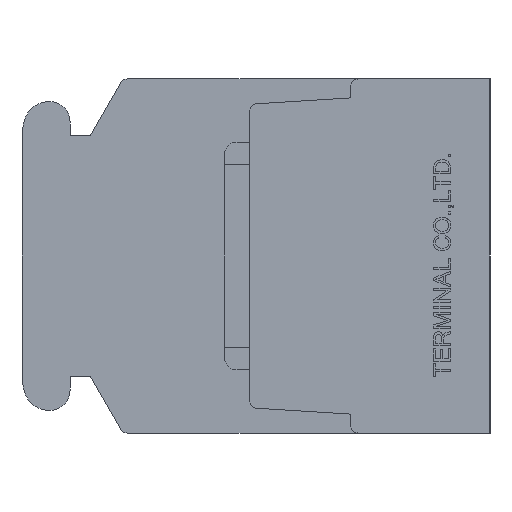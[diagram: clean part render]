
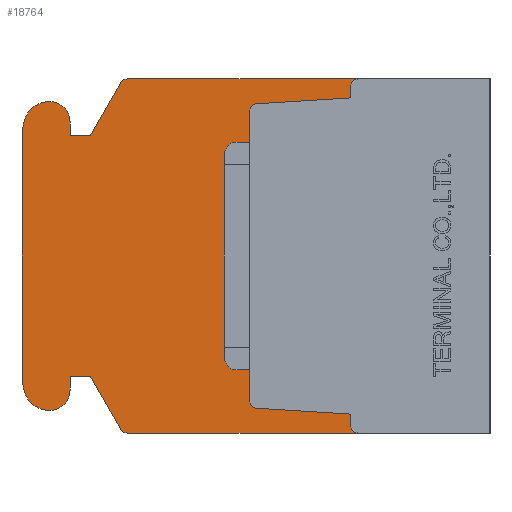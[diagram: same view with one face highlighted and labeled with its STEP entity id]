
A CAD part, left-side view. The second image highlights one B-rep face of the part: STEP entity #18764.
In plain terms, the highlighted planar face has unit normal (-1, 0, 0).
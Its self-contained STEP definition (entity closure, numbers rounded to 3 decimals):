
#784=PLANE('',#20086);
#1447=CIRCLE('',#20087,0.3);
#1448=CIRCLE('',#20088,0.3);
#1449=CIRCLE('',#20089,0.3);
#1450=CIRCLE('',#20090,0.3);
#1451=CIRCLE('',#20091,0.3);
#1452=CIRCLE('',#20092,0.8);
#1453=CIRCLE('',#20093,1.);
#1454=CIRCLE('',#20094,2.);
#1455=CIRCLE('',#20095,2.);
#1456=CIRCLE('',#20096,1.);
#1457=CIRCLE('',#20097,0.8);
#1458=CIRCLE('',#20098,0.3);
#2493=VECTOR('',#22736,1.);
#2494=VECTOR('',#22737,1.);
#2495=VECTOR('',#22740,1.);
#2496=VECTOR('',#22743,1.);
#2497=VECTOR('',#22744,1.);
#2498=VECTOR('',#22747,1.);
#2499=VECTOR('',#22750,1.);
#2500=VECTOR('',#22751,1.);
#2501=VECTOR('',#22752,1.);
#2502=VECTOR('',#22755,1.);
#2503=VECTOR('',#22760,1.);
#2504=VECTOR('',#22765,1.);
#2505=VECTOR('',#22768,1.);
#2506=VECTOR('',#22769,1.);
#2507=VECTOR('',#22770,1.);
#2508=VECTOR('',#22773,1.);
#4567=LINE('',#27377,#2493);
#4568=LINE('',#27379,#2494);
#4569=LINE('',#27383,#2495);
#4570=LINE('',#27387,#2496);
#4571=LINE('',#27389,#2497);
#4572=LINE('',#27393,#2498);
#4573=LINE('',#27397,#2499);
#4574=LINE('',#27399,#2500);
#4575=LINE('',#27401,#2501);
#4576=LINE('',#27405,#2502);
#4577=LINE('',#27411,#2503);
#4578=LINE('',#27417,#2504);
#4579=LINE('',#27421,#2505);
#4580=LINE('',#27423,#2506);
#4581=LINE('',#27425,#2507);
#4582=LINE('',#27429,#2508);
#6629=VERTEX_POINT('',#27375);
#6630=VERTEX_POINT('',#27376);
#6631=VERTEX_POINT('',#27378);
#6632=VERTEX_POINT('',#27380);
#6633=VERTEX_POINT('',#27382);
#6634=VERTEX_POINT('',#27384);
#6635=VERTEX_POINT('',#27386);
#6636=VERTEX_POINT('',#27388);
#6637=VERTEX_POINT('',#27390);
#6638=VERTEX_POINT('',#27392);
#6639=VERTEX_POINT('',#27394);
#6640=VERTEX_POINT('',#27396);
#6641=VERTEX_POINT('',#27398);
#6642=VERTEX_POINT('',#27400);
#6643=VERTEX_POINT('',#27402);
#6644=VERTEX_POINT('',#27404);
#6645=VERTEX_POINT('',#27406);
#6646=VERTEX_POINT('',#27408);
#6647=VERTEX_POINT('',#27410);
#6648=VERTEX_POINT('',#27412);
#6649=VERTEX_POINT('',#27414);
#6650=VERTEX_POINT('',#27416);
#6651=VERTEX_POINT('',#27418);
#6652=VERTEX_POINT('',#27420);
#6653=VERTEX_POINT('',#27422);
#6654=VERTEX_POINT('',#27424);
#6655=VERTEX_POINT('',#27426);
#6656=VERTEX_POINT('',#27428);
#8995=EDGE_CURVE('',#6629,#6630,#1447,.T.);
#8996=EDGE_CURVE('',#6631,#6629,#4567,.T.);
#8997=EDGE_CURVE('',#6632,#6631,#4568,.T.);
#8998=EDGE_CURVE('',#6633,#6632,#1448,.T.);
#8999=EDGE_CURVE('',#6634,#6633,#4569,.T.);
#9000=EDGE_CURVE('',#6635,#6634,#1449,.T.);
#9001=EDGE_CURVE('',#6636,#6635,#4570,.T.);
#9002=EDGE_CURVE('',#6637,#6636,#4571,.T.);
#9003=EDGE_CURVE('',#6638,#6637,#1450,.T.);
#9004=EDGE_CURVE('',#6639,#6638,#4572,.T.);
#9005=EDGE_CURVE('',#6640,#6639,#1451,.T.);
#9006=EDGE_CURVE('',#6641,#6640,#4573,.T.);
#9007=EDGE_CURVE('',#6642,#6641,#4574,.T.);
#9008=EDGE_CURVE('',#6643,#6642,#4575,.T.);
#9009=EDGE_CURVE('',#6644,#6643,#1452,.T.);
#9010=EDGE_CURVE('',#6645,#6644,#4576,.T.);
#9011=EDGE_CURVE('',#6646,#6645,#1453,.T.);
#9012=EDGE_CURVE('',#6647,#6646,#1454,.T.);
#9013=EDGE_CURVE('',#6648,#6647,#4577,.T.);
#9014=EDGE_CURVE('',#6649,#6648,#1455,.T.);
#9015=EDGE_CURVE('',#6650,#6649,#1456,.T.);
#9016=EDGE_CURVE('',#6651,#6650,#4578,.T.);
#9017=EDGE_CURVE('',#6652,#6651,#1457,.T.);
#9018=EDGE_CURVE('',#6653,#6652,#4579,.T.);
#9019=EDGE_CURVE('',#6654,#6653,#4580,.T.);
#9020=EDGE_CURVE('',#6655,#6654,#4581,.T.);
#9021=EDGE_CURVE('',#6656,#6655,#1458,.T.);
#9022=EDGE_CURVE('',#6630,#6656,#4582,.T.);
#12910=ORIENTED_EDGE('',*,*,#8995,.F.);
#12911=ORIENTED_EDGE('',*,*,#8996,.F.);
#12912=ORIENTED_EDGE('',*,*,#8997,.F.);
#12913=ORIENTED_EDGE('',*,*,#8998,.F.);
#12914=ORIENTED_EDGE('',*,*,#8999,.F.);
#12915=ORIENTED_EDGE('',*,*,#9000,.F.);
#12916=ORIENTED_EDGE('',*,*,#9001,.F.);
#12917=ORIENTED_EDGE('',*,*,#9002,.F.);
#12918=ORIENTED_EDGE('',*,*,#9003,.F.);
#12919=ORIENTED_EDGE('',*,*,#9004,.F.);
#12920=ORIENTED_EDGE('',*,*,#9005,.F.);
#12921=ORIENTED_EDGE('',*,*,#9006,.F.);
#12922=ORIENTED_EDGE('',*,*,#9007,.F.);
#12923=ORIENTED_EDGE('',*,*,#9008,.F.);
#12924=ORIENTED_EDGE('',*,*,#9009,.F.);
#12925=ORIENTED_EDGE('',*,*,#9010,.F.);
#12926=ORIENTED_EDGE('',*,*,#9011,.F.);
#12927=ORIENTED_EDGE('',*,*,#9012,.F.);
#12928=ORIENTED_EDGE('',*,*,#9013,.F.);
#12929=ORIENTED_EDGE('',*,*,#9014,.F.);
#12930=ORIENTED_EDGE('',*,*,#9015,.F.);
#12931=ORIENTED_EDGE('',*,*,#9016,.F.);
#12932=ORIENTED_EDGE('',*,*,#9017,.F.);
#12933=ORIENTED_EDGE('',*,*,#9018,.F.);
#12934=ORIENTED_EDGE('',*,*,#9019,.F.);
#12935=ORIENTED_EDGE('',*,*,#9020,.F.);
#12936=ORIENTED_EDGE('',*,*,#9021,.F.);
#12937=ORIENTED_EDGE('',*,*,#9022,.F.);
#16576=EDGE_LOOP('',(#12910,#12911,#12912,#12913,#12914,#12915,#12916,#12917,
#12918,#12919,#12920,#12921,#12922,#12923,#12924,#12925,#12926,#12927,#12928,
#12929,#12930,#12931,#12932,#12933,#12934,#12935,#12936,#12937));
#17688=FACE_BOUND('',#16576,.T.);
#18764=ADVANCED_FACE('',(#17688),#784,.F.);
#20086=AXIS2_PLACEMENT_3D('',#27373,#22733,$);
#20087=AXIS2_PLACEMENT_3D('',#27374,#22734,#22735);
#20088=AXIS2_PLACEMENT_3D('',#27381,#22738,#22739);
#20089=AXIS2_PLACEMENT_3D('',#27385,#22741,#22742);
#20090=AXIS2_PLACEMENT_3D('',#27391,#22745,#22746);
#20091=AXIS2_PLACEMENT_3D('',#27395,#22748,#22749);
#20092=AXIS2_PLACEMENT_3D('',#27403,#22753,#22754);
#20093=AXIS2_PLACEMENT_3D('',#27407,#22756,#22757);
#20094=AXIS2_PLACEMENT_3D('',#27409,#22758,#22759);
#20095=AXIS2_PLACEMENT_3D('',#27413,#22761,#22762);
#20096=AXIS2_PLACEMENT_3D('',#27415,#22763,#22764);
#20097=AXIS2_PLACEMENT_3D('',#27419,#22766,#22767);
#20098=AXIS2_PLACEMENT_3D('',#27427,#22771,#22772);
#22733=DIRECTION('',(1.,0.,0.));
#22734=DIRECTION('',(-1.,0.,0.));
#22735=DIRECTION('',(0.,0.,-0.3));
#22736=DIRECTION('',(0.,0.,-1.));
#22737=DIRECTION('',(0.,-0.998,-0.062));
#22738=DIRECTION('',(-1.,0.,0.));
#22739=DIRECTION('',(0.,0.,-0.3));
#22740=DIRECTION('',(0.,0.,-1.));
#22741=DIRECTION('',(-1.,0.,0.));
#22742=DIRECTION('',(0.,0.,-0.3));
#22743=DIRECTION('',(0.,0.998,-0.062));
#22744=DIRECTION('',(0.,0.,-1.));
#22745=DIRECTION('',(-1.,0.,0.));
#22746=DIRECTION('',(0.,0.,-0.3));
#22747=DIRECTION('',(0.,-1.,0.));
#22748=DIRECTION('',(1.,0.,0.));
#22749=DIRECTION('',(0.,0.,-0.3));
#22750=DIRECTION('',(0.,-0.5,0.866));
#22751=DIRECTION('',(0.,-1.,0.));
#22752=DIRECTION('',(0.,0.,-1.));
#22753=DIRECTION('',(1.,0.,0.));
#22754=DIRECTION('',(0.,0.,-0.8));
#22755=DIRECTION('',(0.,-1.,0.));
#22756=DIRECTION('',(1.,0.,0.));
#22757=DIRECTION('',(0.,0.,-1.));
#22758=DIRECTION('',(1.,0.,0.));
#22759=DIRECTION('',(0.,0.,-2.));
#22760=DIRECTION('',(0.,0.,1.));
#22761=DIRECTION('',(1.,0.,0.));
#22762=DIRECTION('',(0.,0.,-2.));
#22763=DIRECTION('',(1.,0.,0.));
#22764=DIRECTION('',(0.,0.,-1.));
#22765=DIRECTION('',(0.,1.,0.));
#22766=DIRECTION('',(1.,0.,0.));
#22767=DIRECTION('',(0.,0.,-0.8));
#22768=DIRECTION('',(0.,0.,-1.));
#22769=DIRECTION('',(0.,1.,0.));
#22770=DIRECTION('',(0.,0.5,0.866));
#22771=DIRECTION('',(1.,0.,0.));
#22772=DIRECTION('',(0.,0.,-0.3));
#22773=DIRECTION('',(0.,1.,0.));
#27373=CARTESIAN_POINT('',(8.15,9.311,0.));
#27374=CARTESIAN_POINT('',(8.15,5.2,-6.7));
#27375=CARTESIAN_POINT('',(8.15,5.5,-6.7));
#27376=CARTESIAN_POINT('',(8.15,5.2,-7.));
#27377=CARTESIAN_POINT('',(8.15,5.5,-6.7));
#27378=CARTESIAN_POINT('',(8.15,5.5,-6.25));
#27379=CARTESIAN_POINT('',(8.15,5.5,-6.25));
#27380=CARTESIAN_POINT('',(8.15,9.219,-6.018));
#27381=CARTESIAN_POINT('',(8.15,9.2,-5.718));
#27382=CARTESIAN_POINT('',(8.15,9.5,-5.718));
#27383=CARTESIAN_POINT('',(8.15,9.5,-5.718));
#27384=CARTESIAN_POINT('',(8.15,9.5,5.718));
#27385=CARTESIAN_POINT('',(8.15,9.2,5.718));
#27386=CARTESIAN_POINT('',(8.15,9.219,6.018));
#27387=CARTESIAN_POINT('',(8.15,9.219,6.018));
#27388=CARTESIAN_POINT('',(8.15,5.5,6.25));
#27389=CARTESIAN_POINT('',(8.15,5.5,6.25));
#27390=CARTESIAN_POINT('',(8.15,5.5,6.7));
#27391=CARTESIAN_POINT('',(8.15,5.2,6.7));
#27392=CARTESIAN_POINT('',(8.15,5.2,7.));
#27393=CARTESIAN_POINT('',(8.15,14.327,7.));
#27394=CARTESIAN_POINT('',(8.15,14.327,7.));
#27395=CARTESIAN_POINT('',(8.15,14.327,6.7));
#27396=CARTESIAN_POINT('',(8.15,14.587,6.85));
#27397=CARTESIAN_POINT('',(8.15,15.8,4.75));
#27398=CARTESIAN_POINT('',(8.15,15.8,4.75));
#27399=CARTESIAN_POINT('',(8.15,16.6,4.75));
#27400=CARTESIAN_POINT('',(8.15,16.6,4.75));
#27401=CARTESIAN_POINT('',(8.15,16.6,5.3));
#27402=CARTESIAN_POINT('',(8.15,16.6,5.3));
#27403=CARTESIAN_POINT('',(8.15,17.4,5.3));
#27404=CARTESIAN_POINT('',(8.15,17.4,6.1));
#27405=CARTESIAN_POINT('',(8.15,17.437,6.1));
#27406=CARTESIAN_POINT('',(8.15,17.437,6.1));
#27407=CARTESIAN_POINT('',(8.15,17.437,5.1));
#27408=CARTESIAN_POINT('',(8.15,18.373,5.45));
#27409=CARTESIAN_POINT('',(8.15,16.5,4.75));
#27410=CARTESIAN_POINT('',(8.15,18.5,4.75));
#27411=CARTESIAN_POINT('',(8.15,18.5,-4.75));
#27412=CARTESIAN_POINT('',(8.15,18.5,-4.75));
#27413=CARTESIAN_POINT('',(8.15,16.5,-4.75));
#27414=CARTESIAN_POINT('',(8.15,18.373,-5.45));
#27415=CARTESIAN_POINT('',(8.15,17.437,-5.1));
#27416=CARTESIAN_POINT('',(8.15,17.437,-6.1));
#27417=CARTESIAN_POINT('',(8.15,17.4,-6.1));
#27418=CARTESIAN_POINT('',(8.15,17.4,-6.1));
#27419=CARTESIAN_POINT('',(8.15,17.4,-5.3));
#27420=CARTESIAN_POINT('',(8.15,16.6,-5.3));
#27421=CARTESIAN_POINT('',(8.15,16.6,-4.75));
#27422=CARTESIAN_POINT('',(8.15,16.6,-4.75));
#27423=CARTESIAN_POINT('',(8.15,15.8,-4.75));
#27424=CARTESIAN_POINT('',(8.15,15.8,-4.75));
#27425=CARTESIAN_POINT('',(8.15,14.587,-6.85));
#27426=CARTESIAN_POINT('',(8.15,14.587,-6.85));
#27427=CARTESIAN_POINT('',(8.15,14.327,-6.7));
#27428=CARTESIAN_POINT('',(8.15,14.327,-7.));
#27429=CARTESIAN_POINT('',(8.15,0.,-7.));
